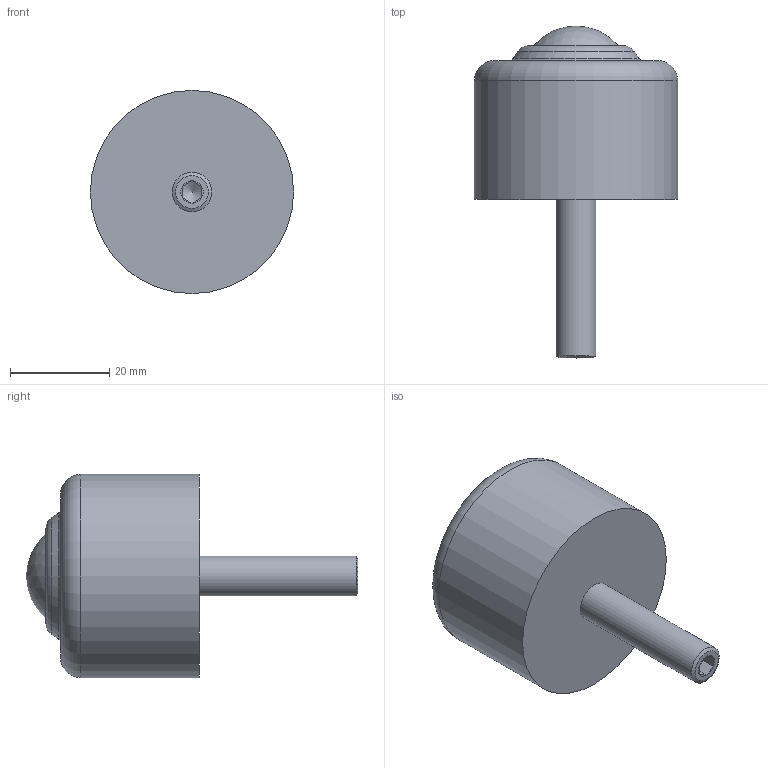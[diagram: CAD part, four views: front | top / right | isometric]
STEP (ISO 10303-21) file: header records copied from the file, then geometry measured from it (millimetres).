
FILE_DESCRIPTION(/* description */ (''),/* implementation_level */ '2;1');
FILE_NAME(/* name */ 'Z:\34-Tei\web 3Dデータ\15-IS-N型\IS-19N.stp',/* time_stamp */ '2015-01-09T14:52:52+09:00',/* author */ ('yamaki'),/* organization */ (''),/* preprocessor_version */ 'ST-DEVELOPER v15.6',/* originating_system */ 'Autodesk Inventor 2015',/* authorisation */ '');
FILE_SCHEMA (('AUTOMOTIVE_DESIGN { 1 0 10303 214 3 1 1 }'));
Length unit declared in the file: millimetre
Products named in the file (1): IS-19N
Bounding box: 41 x 67 x 41 mm (x, y, z)
Volume: 39909 mm3; surface area: 7186 mm2
Topology: 7 solids, 7 shells, 38 faces, 53 edges, 26 vertices
Faces by surface type: plane 22, cylinder 9, cone 3, torus 3, sphere 1
Full cylindrical faces by diameter (mm): 4.62 x1, 8 x1, 41 x1
Entity records: 759 total; most frequent: DIRECTION 146, CARTESIAN_POINT 107, ORIENTED_EDGE 98, AXIS2_PLACEMENT_3D 64, EDGE_LOOP 50, EDGE_CURVE 43, FACE_OUTER_BOUND 38, ADVANCED_FACE 38
